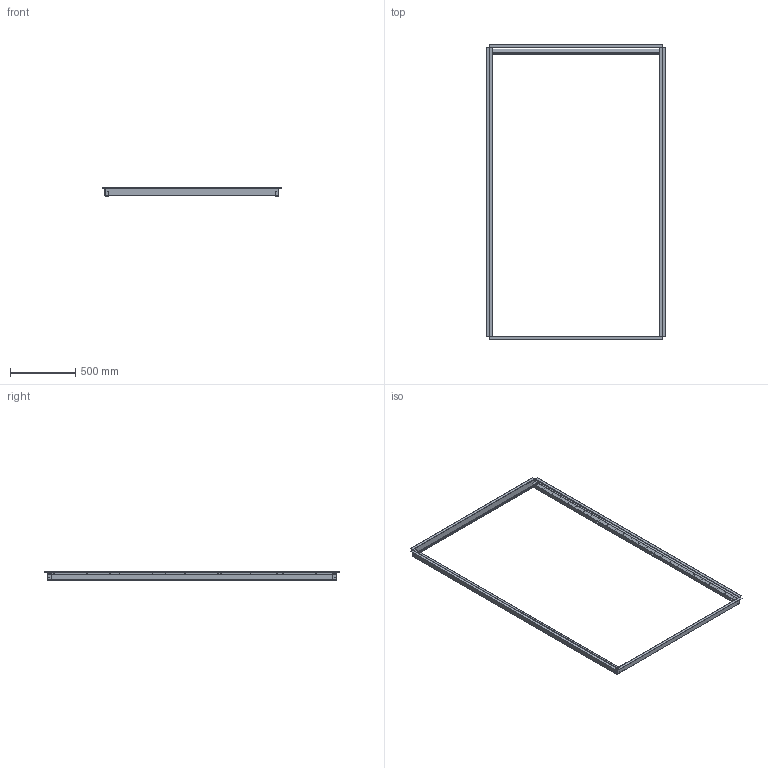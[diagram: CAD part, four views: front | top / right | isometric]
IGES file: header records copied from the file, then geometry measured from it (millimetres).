
Start section: SolidWorks IGES file using analytic representation for surfaces
Global section: file name: C:\Users\barre\OneDrive\Documents\Gridless Design\Container_2\louvers_asm (1).IGS; native system: SolidWorks 2020; preprocessor: SolidWorks 2020; author: barre; date: 230717.104120; units: millimetre
Bounding box: 1373.48 x 2260.6 x 61.3 mm (x, y, z)
Surface area: 3153869.6 mm2 (no closed solid volume)
Topology: 0 solids, 0 shells, 1268 faces, 14672 edges, 14672 vertices
Faces by surface type: bspline 824, revolution 444
